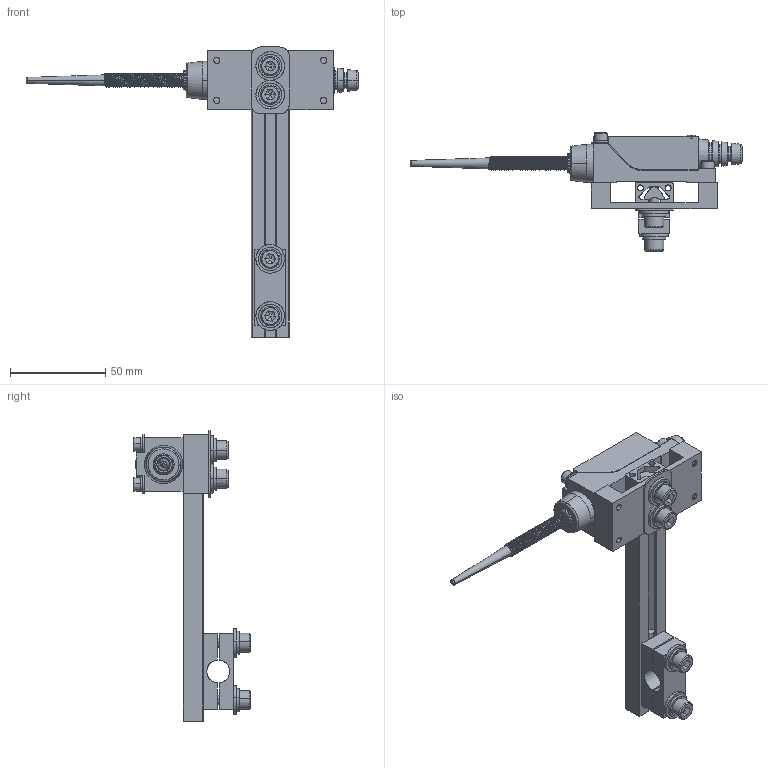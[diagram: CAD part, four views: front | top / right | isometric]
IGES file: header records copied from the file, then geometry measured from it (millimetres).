
Start section: SolidWorks IGES file using analytic representation for surfaces
Global section: file name: E:\EFCKishi\Šm”F\JLM\IGES\JLM-005.IGS; native system: SolidWorks 2006 by SolidWorks Corporation; preprocessor: SolidWorks 2006 by SolidWorks Corporation; author: CAD58; date: 080913.084638; units: millimetre
Bounding box: 174 x 61.8 x 152 mm (x, y, z)
Surface area: 51689.8 mm2 (no closed solid volume)
Topology: 0 solids, 0 shells, 556 faces, 7350 edges, 7274 vertices
Faces by surface type: bspline 352, revolution 204
